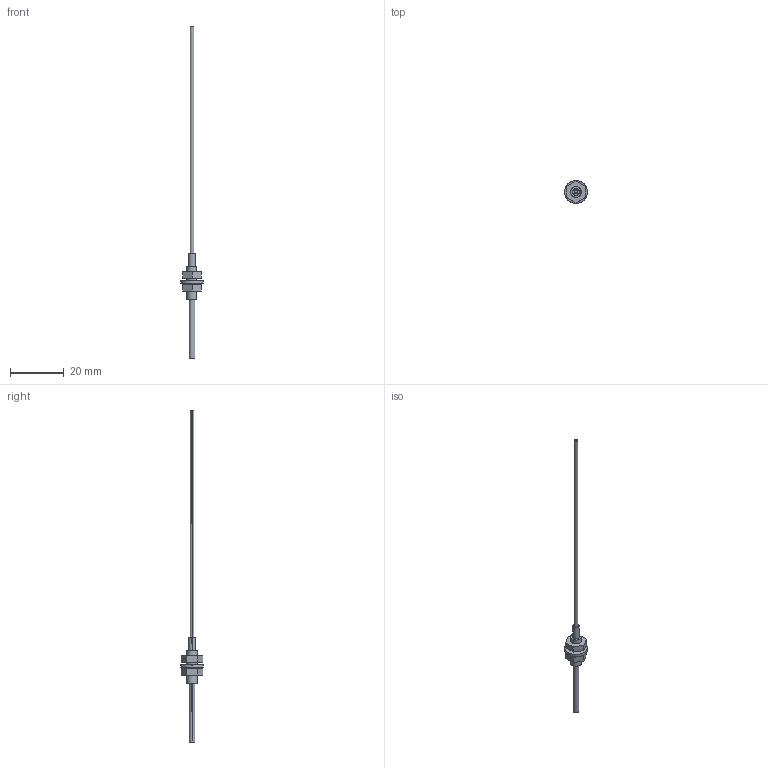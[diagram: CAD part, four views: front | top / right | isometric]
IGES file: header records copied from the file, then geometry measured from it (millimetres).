
Start section: SolidWorks IGES FILE using analytic representation for surfaces
Global section: file name: \\intra-srv04\開発データ\CAD_Data\CAD委員会\3D電子ｶﾀﾛｸﾞ\製品カタログ（新）\0_IGES\FT-FM2S.IGS,41HSolidWorks 2004; native system: by SolidWorks Corporation; preprocessor: Version 5.3; author: yk0651; date: 050908.144749; units: millimetre
Bounding box: 8.5 x 8.5 x 124 mm (x, y, z)
Surface area: 1181.8 mm2 (no closed solid volume)
Topology: 0 solids, 0 shells, 42 faces, 626 edges, 626 vertices
Faces by surface type: bspline 25, revolution 17
